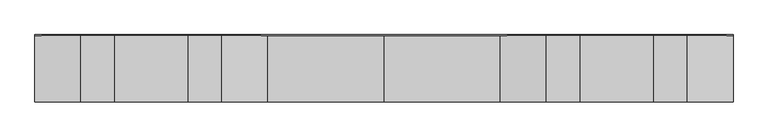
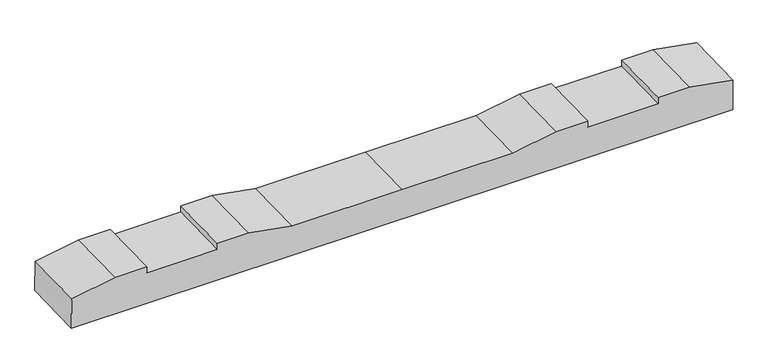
"""IFC4 building model written with IfcOpenShell, lengths in millimetres: proxy geometry, 轨枕-立面角度 : 轨枕-立面角度."""

import ifcopenshell
import ifcopenshell.guid

model = None  # the IFC model being written
_history = None  # IfcOwnerHistory: only IFC2X3 demands one
_inside = {}  # id of a spatial element -> (the spatial element, [elements in it])
_under = {}  # id of a project, library or spatial element -> (it, [spatial elements below it])
_declared = {}  # id of a project -> (the project, [libraries it declares])
_typed = {}  # id of a type object -> (the type object, [elements of that type])
_made_of = {}  # id of a material, layer set ... -> (it, [elements and type objects made of it])


def new_model(schema):
    """Start an empty IFC model of exactly this schema.

    Asked for "IFC4X3", IfcOpenShell would pick the latest addendum, in which some entities
    have other attributes; the version numbers below select the first issue.
    IFC2X3 requires an IfcOwnerHistory on every rooted entity: one is made here for all.
    """
    global model, _history
    if schema == "IFC4X3":
        model = ifcopenshell.file(schema_version=(4, 3, 0, 0))
    else:
        model = ifcopenshell.file(schema=schema)
    _inside.clear()
    _under.clear()
    _declared.clear()
    _typed.clear()
    _made_of.clear()
    _history = None
    if model.schema == "IFC2X3":
        org = make("IfcOrganization", Name="unknown")
        user = make(
            "IfcPersonAndOrganization",
            ThePerson=make("IfcPerson", FamilyName="unknown"),
            TheOrganization=org,
        )
        app = make(
            "IfcApplication",
            ApplicationDeveloper=org,
            Version="unknown",
            ApplicationFullName="unknown",
            ApplicationIdentifier="unknown",
        )
        _history = make(
            "IfcOwnerHistory",
            OwningUser=user,
            OwningApplication=app,
            ChangeAction="ADDED",
            CreationDate=0,
        )
    return model


def make(cls, **values):
    """One entity of the class cls with the attributes given. An attribute that is None is left unset."""
    return model.create_entity(
        cls, **{name: value for name, value in values.items() if value is not None}
    )


def rooted(cls, **values):
    """An entity with a GlobalId (a new one), such as an element, a storey or a relation."""
    return make(cls, GlobalId=ifcopenshell.guid.new(), OwnerHistory=_history, **values)


def si_unit(unit_type, name, prefix=None):
    """IfcSIUnit, for example si_unit("LENGTHUNIT", "METRE", prefix="MILLI")."""
    return make("IfcSIUnit", UnitType=unit_type, Prefix=prefix, Name=name)


def assignment(units):
    """IfcUnitAssignment: the units of a project."""
    return None if units is None else make("IfcUnitAssignment", Units=units)


def point(xyz):
    """IfcCartesianPoint."""
    return None if xyz is None else make("IfcCartesianPoint", Coordinates=xyz)


def direction(xyz):
    """IfcDirection."""
    return None if xyz is None else make("IfcDirection", DirectionRatios=xyz)


def frame(location, z_axis=None, x_axis=None):
    """IfcAxis2Placement3D, a coordinate frame: its origin and axes. An axis left out is left unset."""
    return make(
        "IfcAxis2Placement3D",
        Location=point(location),
        Axis=direction(z_axis),
        RefDirection=direction(x_axis),
    )


def origin():
    """The frame at (0, 0, 0) with its axes left unset."""
    return frame((0.0, 0.0, 0.0))


def place(relative_to, where):
    """IfcLocalPlacement: puts the frame where relative to a parent placement (None: the world)."""
    return make(
        "IfcLocalPlacement", PlacementRelTo=relative_to, RelativePlacement=where
    )


def context(
    kind, dimensions, precision=None, world=None, true_north=None, identifier=None
):
    """IfcGeometricRepresentationContext, for example the 3D "Model" context."""
    return make(
        "IfcGeometricRepresentationContext",
        ContextIdentifier=identifier,
        ContextType=kind,
        CoordinateSpaceDimension=dimensions,
        Precision=precision,
        WorldCoordinateSystem=world,
        TrueNorth=true_north,
    )


def project(units=None, contexts=None):
    """IfcProject with its units and contexts."""
    return rooted(
        "IfcProject",
        Name="project",
        RepresentationContexts=contexts,
        UnitsInContext=assignment(units),
    )


def spatial(cls, under=None, at=None, **own):
    """A site, building, storey or space (cls), placed at a placement, below another one or the project."""
    s = rooted(cls, ObjectPlacement=at, **own)
    if under is not None:
        _under.setdefault(under.id(), (under, []))[1].append(s)
    return s


def polyline(points):
    """IfcPolyline through the points."""
    return make("IfcPolyline", Points=[point(p) for p in points])


def outline(outer, holes=None, kind="AREA"):
    """IfcArbitraryClosedProfileDef: a profile drawn as a closed curve; with holes, ...WithVoids."""
    if holes is None:
        return make("IfcArbitraryClosedProfileDef", ProfileType=kind, OuterCurve=outer)
    return make(
        "IfcArbitraryProfileDefWithVoids",
        ProfileType=kind,
        OuterCurve=outer,
        InnerCurves=holes,
    )


def extrude(swept, where, along, depth):
    """IfcExtrudedAreaSolid: the profile swept, set in the frame where, extruded along a direction by depth."""
    return make(
        "IfcExtrudedAreaSolid",
        SweptArea=swept,
        Position=where,
        ExtrudedDirection=direction(along),
        Depth=depth,
    )


def shape(context_of_items, identifier, shape_type, items):
    """IfcShapeRepresentation: the items that make up one representation, for example the "Body"."""
    return make(
        "IfcShapeRepresentation",
        ContextOfItems=context_of_items,
        RepresentationIdentifier=identifier,
        RepresentationType=shape_type,
        Items=items,
    )


def source(mapping_origin, context_of_items, identifier, shape_type, items):
    """IfcRepresentationMap: a shape defined once, which mapped items show again and again."""
    return make(
        "IfcRepresentationMap",
        MappingOrigin=mapping_origin,
        MappedRepresentation=shape(context_of_items, identifier, shape_type, items),
    )


def transform(
    local_origin,
    x_axis=None,
    y_axis=None,
    z_axis=None,
    scale=None,
    scale2=None,
    scale3=None,
    uniform=True,
):
    """IfcCartesianTransformationOperator3D, or its non-uniform kind. x_axis, y_axis, z_axis: its Axis1, 2, 3."""
    if uniform:
        return make(
            "IfcCartesianTransformationOperator3D",
            Axis1=direction(x_axis),
            Axis2=direction(y_axis),
            LocalOrigin=point(local_origin),
            Scale=scale,
            Axis3=direction(z_axis),
        )
    return make(
        "IfcCartesianTransformationOperator3DnonUniform",
        Axis1=direction(x_axis),
        Axis2=direction(y_axis),
        LocalOrigin=point(local_origin),
        Scale=scale,
        Axis3=direction(z_axis),
        Scale2=scale2,
        Scale3=scale3,
    )


def mapped(mapping_source, mapping_target):
    """IfcMappedItem: shows the shape of a source again, moved by a transform."""
    return make(
        "IfcMappedItem", MappingSource=mapping_source, MappingTarget=mapping_target
    )


def made_of(thing, what):
    """Note that an element or type object is made of a material, layer set ...; save() writes the relation."""
    if what is not None:
        _made_of.setdefault(what.id(), (what, []))[1].append(thing)
    return thing


def element(
    cls,
    number,
    at=None,
    inside=None,
    cuts=None,
    type_object=None,
    material=None,
    context=None,
    identifier="Body",
    shape_type=None,
    held_by="IfcProductDefinitionShape",
    body=None,
    shapes=None,
    **own,
):
    """One element of the class cls, such as IfcWall. Its Tag is "e" and its number.

    at: its placement. inside: the storey or other place that contains it. cuts: it is an
    opening in that element (IfcRelVoidsElement). A single representation is given by context,
    identifier, shape_type and body (its items); several are given by shapes. held_by: the class
    of the entity that holds the representations. save() writes the other relations.
    """
    e = rooted(cls, Tag="e%d" % number, ObjectPlacement=at, **own)
    if body is not None:
        shapes = [shape(context, identifier, shape_type, body)]
    if shapes is not None:
        e.Representation = make(held_by, Representations=shapes)
    if inside is not None:
        _inside.setdefault(inside.id(), (inside, []))[1].append(e)
    if cuts is not None:
        rooted(
            "IfcRelVoidsElement", RelatingBuildingElement=cuts, RelatedOpeningElement=e
        )
    if type_object is not None:
        _typed.setdefault(type_object.id(), (type_object, []))[1].append(e)
    return made_of(e, material)


def aggregate(whole, parts):
    """IfcRelAggregates: a whole, such as a stair, and the parts it consists of."""
    return rooted("IfcRelAggregates", RelatingObject=whole, RelatedObjects=parts)


def save(model, path):
    """Write the relations noted so far, then the file.

    IfcRelAggregates (storeys below a building ...), IfcRelContainedInSpatialStructure (elements
    in a storey), IfcRelDefinesByType, IfcRelAssociatesMaterial and IfcRelDeclares: one each for
    every whole, place, type object, material and project.
    """
    for whole, parts in _under.values():
        aggregate(whole, parts)
    for where, things in _inside.values():
        rooted(
            "IfcRelContainedInSpatialStructure",
            RelatedElements=things,
            RelatingStructure=where,
        )
    for kind, things in _typed.values():
        rooted("IfcRelDefinesByType", RelatedObjects=things, RelatingType=kind)
    for what, things in _made_of.values():
        rooted("IfcRelAssociatesMaterial", RelatedObjects=things, RelatingMaterial=what)
    for by, libraries in _declared.values():
        rooted("IfcRelDeclares", RelatingContext=by, RelatedDefinitions=libraries)
    model.write(path)


def generic_models_1c9ec795(model_context):
    return source(origin(), model_context, "Body", "SweptSolid", [
        extrude(outline(polyline([(0.0, 0.0), (2099.7669328, 0.0), (2099.7669328, -100.0206889), (1961.8834664, -124.5), (1861.8834664, -124.5), (1861.8834664, -104.5), (1637.8834664, -104.5), (1637.8834664, -124.5), (1537.8834664, -124.5), (1399.8834664, -100.0), (1049.8834664, -100.0), (699.8834664, -100.0), (561.8834664, -124.5), (461.8834664, -124.5), (461.8834664, -104.5), (237.8834664, -104.5), (237.8834664, -124.5), (137.8834664, -124.5), (0.0, -100.0206889), (0.0, 0.0)])), frame((-1049.8834664, -97.4107248, -106.9177286), z_axis=(0.0, 0.9997000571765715, 0.02449072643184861), x_axis=(1.0, 0.0, 0.0)), (0.0, 0.0, 1.0), 200.0),
    ])


if __name__ == "__main__":
    model = new_model("IFC4")
    model_context = context("Model", 3, world=origin())
    ifc_project = project(units=[si_unit("LENGTHUNIT", "METRE", prefix="MILLI")], contexts=[model_context])
    site = spatial("IfcSite", under=ifc_project)
    building = spatial("IfcBuilding", under=site)
    placement = place(None, origin())
    generic_models_shape = generic_models_1c9ec795(model_context)
    element("IfcBuildingElementProxy", 1, Name="轨枕-立面角度 : 轨枕-立面角度", ObjectType="轨枕-立面角度 : 轨枕-立面角度", at=placement, inside=building, context=model_context, shape_type="MappedRepresentation", body=[
        mapped(generic_models_shape, transform((0.0, 0.0, 0.0), x_axis=(1.0, 0.0, 0.0), y_axis=(0.0, 1.0, 0.0), z_axis=(0.0, 0.0, 1.0))),
    ])
    save(model, "model.ifc")
